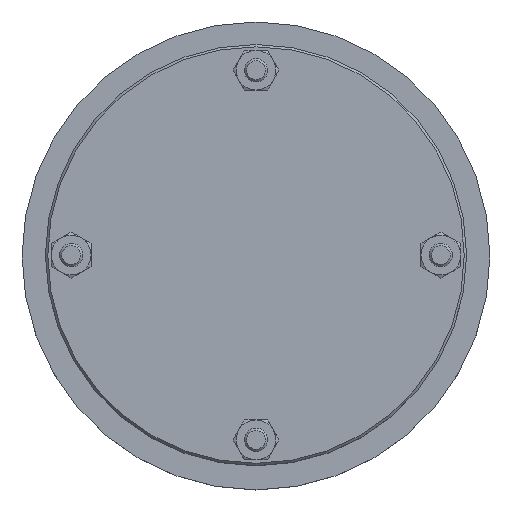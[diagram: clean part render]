
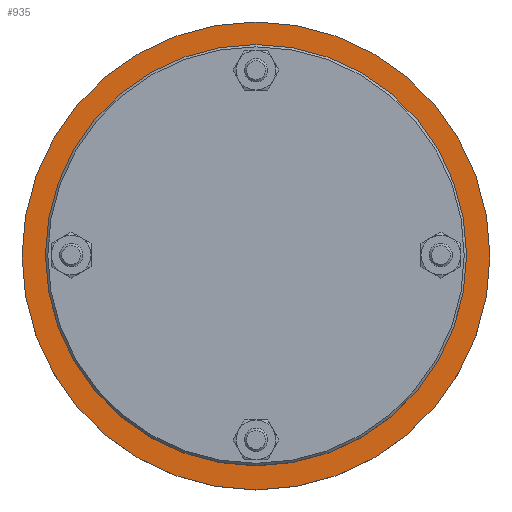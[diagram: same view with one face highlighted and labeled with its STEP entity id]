
A CAD part, top view. The second image highlights one B-rep face of the part: STEP entity #935.
In plain terms, the highlighted planar face has unit normal (0, 0, 1).
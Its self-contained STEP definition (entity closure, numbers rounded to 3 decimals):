
#935=ADVANCED_FACE('',(#3507,#3509,#3511,#3513,#3515,#3517,#3519,#3521,#3523,#3525),
#3527,.T.);
#3507=FACE_BOUND('',#3508,.T.);
#3508=EDGE_LOOP('',(#5523));
#3509=FACE_BOUND('',#3510,.T.);
#3510=EDGE_LOOP('',(#5524));
#3511=FACE_BOUND('',#3512,.T.);
#3512=EDGE_LOOP('',(#5525));
#3513=FACE_BOUND('',#3514,.T.);
#3514=EDGE_LOOP('',(#5526));
#3515=FACE_BOUND('',#3516,.T.);
#3516=EDGE_LOOP('',(#5527));
#3517=FACE_BOUND('',#3518,.T.);
#3518=EDGE_LOOP('',(#5528));
#3519=FACE_BOUND('',#3520,.T.);
#3520=EDGE_LOOP('',(#5529));
#3521=FACE_BOUND('',#3522,.T.);
#3522=EDGE_LOOP('',(#5530));
#3523=FACE_BOUND('',#3524,.T.);
#3524=EDGE_LOOP('',(#5531));
#3525=FACE_BOUND('',#3526,.T.);
#3526=EDGE_LOOP('',(#5532));
#3527=PLANE('',#3528);
#3528=AXIS2_PLACEMENT_3D('',#3529,#3530,#3531);
#3529=CARTESIAN_POINT('',(0.,0.,22.));
#3530=DIRECTION('',(0.,0.,1.));
#3531=DIRECTION('',(1.,0.,0.));
#5523=ORIENTED_EDGE('',*,*,#6561,.T.);
#5524=ORIENTED_EDGE('',*,*,#6535,.F.);
#5525=ORIENTED_EDGE('',*,*,#6562,.T.);
#5526=ORIENTED_EDGE('',*,*,#6563,.T.);
#5527=ORIENTED_EDGE('',*,*,#6564,.T.);
#5528=ORIENTED_EDGE('',*,*,#6565,.T.);
#5529=ORIENTED_EDGE('',*,*,#6566,.T.);
#5530=ORIENTED_EDGE('',*,*,#6567,.T.);
#5531=ORIENTED_EDGE('',*,*,#6568,.T.);
#5532=ORIENTED_EDGE('',*,*,#6569,.T.);
#6535=EDGE_CURVE('',#7283,#7283,#7284,.T.);
#6561=EDGE_CURVE('',#7311,#7311,#7312,.T.);
#6562=EDGE_CURVE('',#7313,#7313,#7314,.T.);
#6563=EDGE_CURVE('',#7315,#7315,#7316,.T.);
#6564=EDGE_CURVE('',#7317,#7317,#7318,.T.);
#6565=EDGE_CURVE('',#7319,#7319,#7320,.T.);
#6566=EDGE_CURVE('',#7321,#7321,#7322,.T.);
#6567=EDGE_CURVE('',#7323,#7323,#7324,.T.);
#6568=EDGE_CURVE('',#7325,#7325,#7326,.T.);
#6569=EDGE_CURVE('',#7327,#7327,#7328,.T.);
#7283=VERTEX_POINT('',#11276);
#7284=CIRCLE('',#11277,63.);
#7311=VERTEX_POINT('',#11382);
#7312=CIRCLE('',#11383,100.);
#7313=VERTEX_POINT('',#11387);
#7314=CIRCLE('',#11388,9.);
#7315=VERTEX_POINT('',#11392);
#7316=CIRCLE('',#11393,9.);
#7317=VERTEX_POINT('',#11397);
#7318=CIRCLE('',#11398,9.);
#7319=VERTEX_POINT('',#11402);
#7320=CIRCLE('',#11403,9.);
#7321=VERTEX_POINT('',#11407);
#7322=CIRCLE('',#11408,9.);
#7323=VERTEX_POINT('',#11412);
#7324=CIRCLE('',#11413,9.);
#7325=VERTEX_POINT('',#11417);
#7326=CIRCLE('',#11418,9.);
#7327=VERTEX_POINT('',#11422);
#7328=CIRCLE('',#11423,9.);
#11276=CARTESIAN_POINT('',(63.,0.,22.));
#11277=AXIS2_PLACEMENT_3D('',#11278,#11279,#11280);
#11278=CARTESIAN_POINT('',(0.,0.,22.));
#11279=DIRECTION('',(0.,0.,1.));
#11280=DIRECTION('',(1.,0.,0.));
#11382=CARTESIAN_POINT('',(100.,0.,22.));
#11383=AXIS2_PLACEMENT_3D('',#11384,#11385,#11386);
#11384=CARTESIAN_POINT('',(0.,0.,22.));
#11385=DIRECTION('',(0.,0.,1.));
#11386=DIRECTION('',(1.,0.,0.));
#11387=CARTESIAN_POINT('',(39.615,-73.91,22.));
#11388=AXIS2_PLACEMENT_3D('',#11389,#11390,#11391);
#11389=CARTESIAN_POINT('',(30.615,-73.91,22.));
#11390=DIRECTION('',(0.,0.,-1.));
#11391=DIRECTION('',(1.,0.,0.));
#11392=CARTESIAN_POINT('',(-24.251,-80.274,22.));
#11393=AXIS2_PLACEMENT_3D('',#11394,#11395,#11396);
#11394=CARTESIAN_POINT('',(-30.615,-73.91,22.));
#11395=DIRECTION('',(0.,0.,-1.));
#11396=DIRECTION('',(0.707,-0.707,0.));
#11397=CARTESIAN_POINT('',(-73.91,-39.615,22.));
#11398=AXIS2_PLACEMENT_3D('',#11399,#11400,#11401);
#11399=CARTESIAN_POINT('',(-73.91,-30.615,22.));
#11400=DIRECTION('',(0.,0.,-1.));
#11401=DIRECTION('',(0.,-1.,0.));
#11402=CARTESIAN_POINT('',(-80.274,24.251,22.));
#11403=AXIS2_PLACEMENT_3D('',#11404,#11405,#11406);
#11404=CARTESIAN_POINT('',(-73.91,30.615,22.));
#11405=DIRECTION('',(0.,0.,-1.));
#11406=DIRECTION('',(-0.707,-0.707,0.));
#11407=CARTESIAN_POINT('',(-39.615,73.91,22.));
#11408=AXIS2_PLACEMENT_3D('',#11409,#11410,#11411);
#11409=CARTESIAN_POINT('',(-30.615,73.91,22.));
#11410=DIRECTION('',(0.,0.,-1.));
#11411=DIRECTION('',(-1.,0.,0.));
#11412=CARTESIAN_POINT('',(24.251,80.274,22.));
#11413=AXIS2_PLACEMENT_3D('',#11414,#11415,#11416);
#11414=CARTESIAN_POINT('',(30.615,73.91,22.));
#11415=DIRECTION('',(0.,0.,-1.));
#11416=DIRECTION('',(-0.707,0.707,0.));
#11417=CARTESIAN_POINT('',(73.91,39.615,22.));
#11418=AXIS2_PLACEMENT_3D('',#11419,#11420,#11421);
#11419=CARTESIAN_POINT('',(73.91,30.615,22.));
#11420=DIRECTION('',(0.,0.,-1.));
#11421=DIRECTION('',(0.,1.,0.));
#11422=CARTESIAN_POINT('',(80.274,-24.251,22.));
#11423=AXIS2_PLACEMENT_3D('',#11424,#11425,#11426);
#11424=CARTESIAN_POINT('',(73.91,-30.615,22.));
#11425=DIRECTION('',(0.,0.,-1.));
#11426=DIRECTION('',(0.707,0.707,0.));
